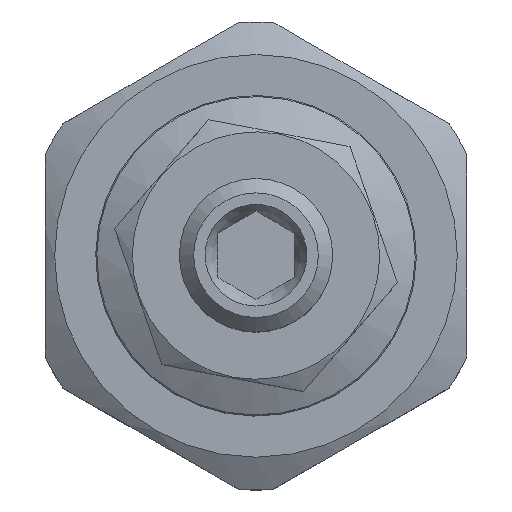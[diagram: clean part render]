
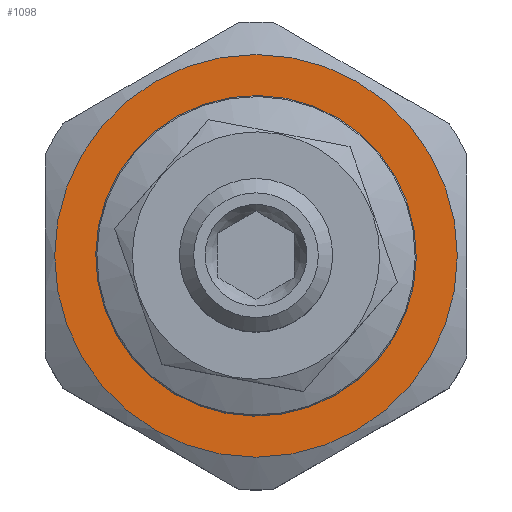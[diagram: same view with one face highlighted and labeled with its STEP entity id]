
A CAD part, top view. The second image highlights one B-rep face of the part: STEP entity #1098.
In plain terms, the highlighted planar face has unit normal (0, 0, 1).
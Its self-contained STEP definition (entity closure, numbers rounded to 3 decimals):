
#226=ORIENTED_EDGE('',*,*,#397,.F.);
#227=ORIENTED_EDGE('',*,*,#398,.T.);
#397=EDGE_CURVE('',#483,#483,#541,.F.);
#398=EDGE_CURVE('',#484,#484,#542,.T.);
#483=VERTEX_POINT('',#1562);
#484=VERTEX_POINT('',#1565);
#541=CIRCLE('',#1172,10.5);
#542=CIRCLE('',#1174,8.26);
#578=EDGE_LOOP('',(#226));
#579=EDGE_LOOP('',(#227));
#651=FACE_BOUND('',#578,.T.);
#652=FACE_BOUND('',#579,.T.);
#709=PLANE('',#1173);
#1098=ADVANCED_FACE('',(#651,#652),#709,.T.);
#1172=AXIS2_PLACEMENT_3D('',#1561,#1315,#1316);
#1173=AXIS2_PLACEMENT_3D('',#1563,#1317,#1318);
#1174=AXIS2_PLACEMENT_3D('',#1564,#1319,#1320);
#1315=DIRECTION('',(0.,0.,1.));
#1316=DIRECTION('',(1.,0.,0.));
#1317=DIRECTION('',(0.,0.,1.));
#1318=DIRECTION('',(1.,0.,0.));
#1319=DIRECTION('',(0.,0.,-1.));
#1320=DIRECTION('',(-1.,0.,0.));
#1561=CARTESIAN_POINT('',(0.,0.,39.));
#1562=CARTESIAN_POINT('',(10.5,0.,39.));
#1563=CARTESIAN_POINT('',(0.,0.,39.));
#1564=CARTESIAN_POINT('',(0.,0.,39.));
#1565=CARTESIAN_POINT('',(-8.26,0.,39.));
